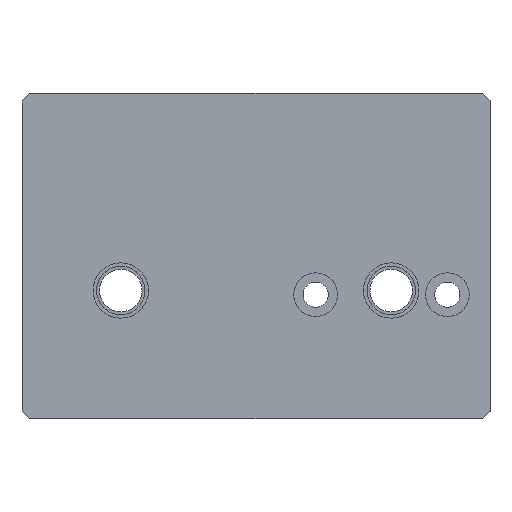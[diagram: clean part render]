
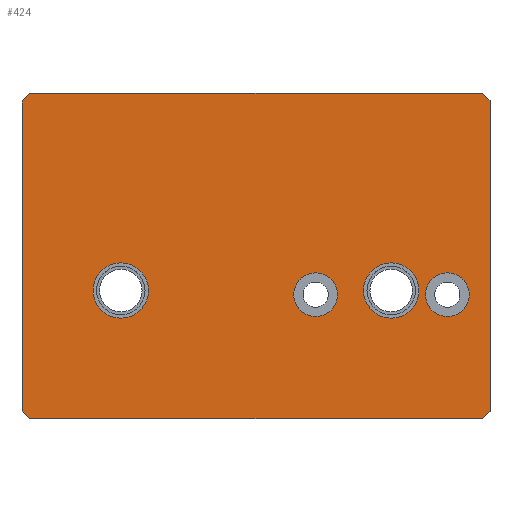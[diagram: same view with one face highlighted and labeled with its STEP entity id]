
A CAD part, top view. The second image highlights one B-rep face of the part: STEP entity #424.
In plain terms, the highlighted planar face has unit normal (0, 0, 1).
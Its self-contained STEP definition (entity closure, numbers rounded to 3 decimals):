
#21=FACE_BOUND('',#95,.T.);
#22=FACE_BOUND('',#96,.T.);
#23=FACE_BOUND('',#97,.T.);
#24=FACE_BOUND('',#98,.T.);
#36=PLANE('',#484);
#62=FACE_OUTER_BOUND('',#94,.T.);
#94=EDGE_LOOP('',(#345,#346,#347,#348,#349,#350,#351,#352));
#95=EDGE_LOOP('',(#353));
#96=EDGE_LOOP('',(#354));
#97=EDGE_LOOP('',(#355));
#98=EDGE_LOOP('',(#356));
#123=LINE('',#695,#157);
#125=LINE('',#699,#159);
#126=LINE('',#701,#160);
#127=LINE('',#703,#161);
#128=LINE('',#705,#162);
#129=LINE('',#707,#163);
#130=LINE('',#709,#164);
#131=LINE('',#710,#165);
#157=VECTOR('',#581,10.);
#159=VECTOR('',#585,10.);
#160=VECTOR('',#586,10.);
#161=VECTOR('',#587,10.);
#162=VECTOR('',#588,10.);
#163=VECTOR('',#589,10.);
#164=VECTOR('',#590,10.);
#165=VECTOR('',#591,10.);
#181=CIRCLE('',#451,2.825);
#185=CIRCLE('',#458,2.825);
#191=CIRCLE('',#469,3.575);
#197=CIRCLE('',#480,3.575);
#201=VERTEX_POINT('',#629);
#205=VERTEX_POINT('',#642);
#211=VERTEX_POINT('',#662);
#217=VERTEX_POINT('',#682);
#221=VERTEX_POINT('',#692);
#222=VERTEX_POINT('',#694);
#223=VERTEX_POINT('',#698);
#224=VERTEX_POINT('',#700);
#225=VERTEX_POINT('',#702);
#226=VERTEX_POINT('',#704);
#227=VERTEX_POINT('',#706);
#228=VERTEX_POINT('',#708);
#238=EDGE_CURVE('',#201,#201,#181,.T.);
#244=EDGE_CURVE('',#205,#205,#185,.T.);
#253=EDGE_CURVE('',#211,#211,#191,.T.);
#262=EDGE_CURVE('',#217,#217,#197,.T.);
#267=EDGE_CURVE('',#221,#222,#123,.T.);
#269=EDGE_CURVE('',#223,#221,#125,.T.);
#270=EDGE_CURVE('',#224,#223,#126,.T.);
#271=EDGE_CURVE('',#225,#224,#127,.T.);
#272=EDGE_CURVE('',#226,#225,#128,.T.);
#273=EDGE_CURVE('',#227,#226,#129,.T.);
#274=EDGE_CURVE('',#228,#227,#130,.T.);
#275=EDGE_CURVE('',#222,#228,#131,.T.);
#345=ORIENTED_EDGE('',*,*,#267,.F.);
#346=ORIENTED_EDGE('',*,*,#269,.F.);
#347=ORIENTED_EDGE('',*,*,#270,.F.);
#348=ORIENTED_EDGE('',*,*,#271,.F.);
#349=ORIENTED_EDGE('',*,*,#272,.F.);
#350=ORIENTED_EDGE('',*,*,#273,.F.);
#351=ORIENTED_EDGE('',*,*,#274,.F.);
#352=ORIENTED_EDGE('',*,*,#275,.F.);
#353=ORIENTED_EDGE('',*,*,#238,.T.);
#354=ORIENTED_EDGE('',*,*,#244,.T.);
#355=ORIENTED_EDGE('',*,*,#253,.T.);
#356=ORIENTED_EDGE('',*,*,#262,.T.);
#424=ADVANCED_FACE('',(#62,#21,#22,#23,#24),#36,.T.);
#451=AXIS2_PLACEMENT_3D('',#630,#504,#505);
#458=AXIS2_PLACEMENT_3D('',#643,#520,#521);
#469=AXIS2_PLACEMENT_3D('',#663,#545,#546);
#480=AXIS2_PLACEMENT_3D('',#683,#570,#571);
#484=AXIS2_PLACEMENT_3D('',#697,#583,#584);
#504=DIRECTION('center_axis',(0.,0.,-1.));
#505=DIRECTION('ref_axis',(0.,1.,0.));
#520=DIRECTION('center_axis',(0.,0.,-1.));
#521=DIRECTION('ref_axis',(0.,1.,0.));
#545=DIRECTION('center_axis',(0.,0.,-1.));
#546=DIRECTION('ref_axis',(0.,1.,0.));
#570=DIRECTION('center_axis',(0.,0.,-1.));
#571=DIRECTION('ref_axis',(0.,1.,0.));
#581=DIRECTION('',(0.707,-0.707,0.));
#583=DIRECTION('center_axis',(0.,0.,1.));
#584=DIRECTION('ref_axis',(0.,1.,0.));
#585=DIRECTION('',(1.,0.,0.));
#586=DIRECTION('',(0.707,0.707,0.));
#587=DIRECTION('',(0.,1.,0.));
#588=DIRECTION('',(-0.707,0.707,0.));
#589=DIRECTION('',(-1.,0.,0.));
#590=DIRECTION('',(-0.707,-0.707,0.));
#591=DIRECTION('',(0.,-1.,0.));
#629=CARTESIAN_POINT('',(22.5,11.175,8.84));
#630=CARTESIAN_POINT('Origin',(22.5,14.,8.84));
#642=CARTESIAN_POINT('',(5.5,11.175,8.84));
#643=CARTESIAN_POINT('Origin',(5.5,14.,8.84));
#662=CARTESIAN_POINT('',(15.25,10.967,8.84));
#663=CARTESIAN_POINT('Origin',(15.25,14.542,8.84));
#682=CARTESIAN_POINT('',(-19.65,10.967,8.84));
#683=CARTESIAN_POINT('Origin',(-19.65,14.542,8.84));
#692=CARTESIAN_POINT('',(27.,40.,8.84));
#694=CARTESIAN_POINT('',(28.,39.,8.84));
#695=CARTESIAN_POINT('',(26.513,40.488,8.84));
#697=CARTESIAN_POINT('Origin',(-2.2,13.75,8.84));
#698=CARTESIAN_POINT('',(-31.4,40.,8.84));
#699=CARTESIAN_POINT('',(-2.2,40.,8.84));
#700=CARTESIAN_POINT('',(-32.4,39.,8.84));
#701=CARTESIAN_POINT('',(-30.913,40.488,8.84));
#702=CARTESIAN_POINT('',(-32.4,-1.,8.84));
#703=CARTESIAN_POINT('',(-32.4,13.75,8.84));
#704=CARTESIAN_POINT('',(-31.4,-2.,8.84));
#705=CARTESIAN_POINT('',(-27.788,-5.613,8.84));
#706=CARTESIAN_POINT('',(27.,-2.,8.84));
#707=CARTESIAN_POINT('',(-2.2,-2.,8.84));
#708=CARTESIAN_POINT('',(28.,-1.,8.84));
#709=CARTESIAN_POINT('',(23.388,-5.613,8.84));
#710=CARTESIAN_POINT('',(28.,13.75,8.84));
